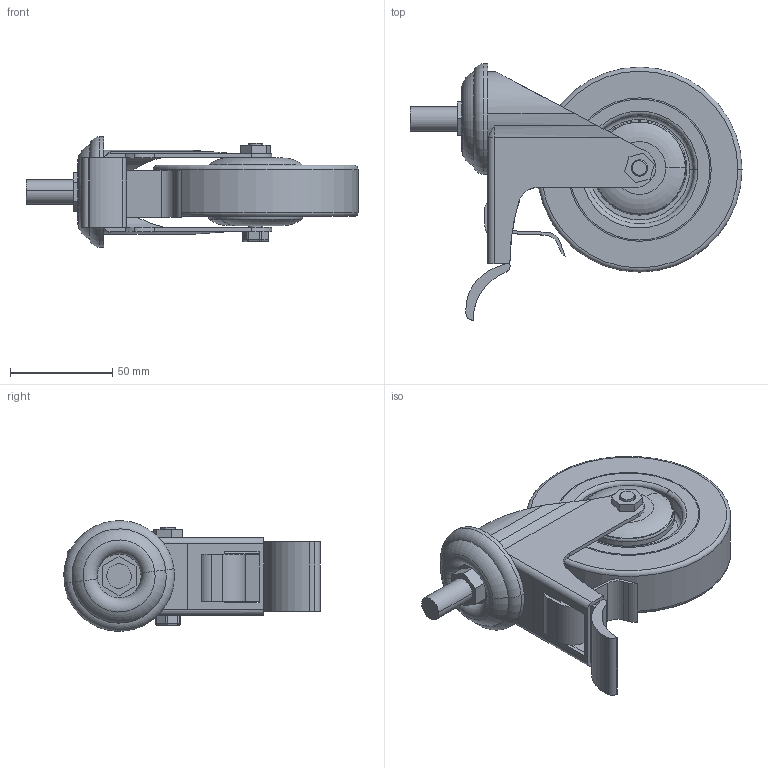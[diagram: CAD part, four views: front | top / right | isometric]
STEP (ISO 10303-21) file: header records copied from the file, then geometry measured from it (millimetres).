
FILE_DESCRIPTION (( 'STEP AP203' ), '1' );
FILE_NAME ('RSI937100.STEP', '2016-04-03T09:55:57', ( '' ), ( '' ), 'SwSTEP 2.0', 'SolidWorks 2014', '' );
FILE_SCHEMA (( 'CONFIG_CONTROL_DESIGN' ));
Length unit declared in the file: millimetre
Products named in the file (8): 搿錓; 闃膼瘔; ïîäøèáíèê; ãàéêà; RSI937100; 膰錼勷; öèëèíäð; çàùèòà
Assembly tree (8 placements, depth 2):
  RSI937100
    膰錼勷
    öèëèíäð
    çàùèòà  x2
    搿錓
    闃膼瘔
    ïîäøèáíèê
    ãàéêà
Bounding box: 161.99 x 125.07 x 53.95 mm (x, y, z)
Volume: 222103.6 mm3; surface area: 75592.3 mm2
Topology: 9 solids, 9 shells, 227 faces, 532 edges, 334 vertices
Faces by surface type: plane 92, cylinder 86, torus 42, sphere 7
Entity records: 7007 total; most frequent: DIRECTION 1159, CARTESIAN_POINT 1088, ORIENTED_EDGE 992, EDGE_CURVE 496, AXIS2_PLACEMENT_3D 455, VERTEX_POINT 312, LINE 249, VECTOR 249
